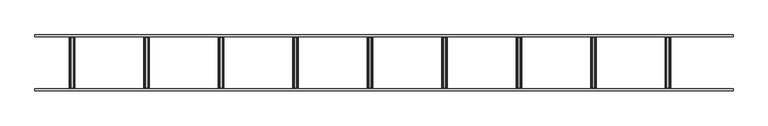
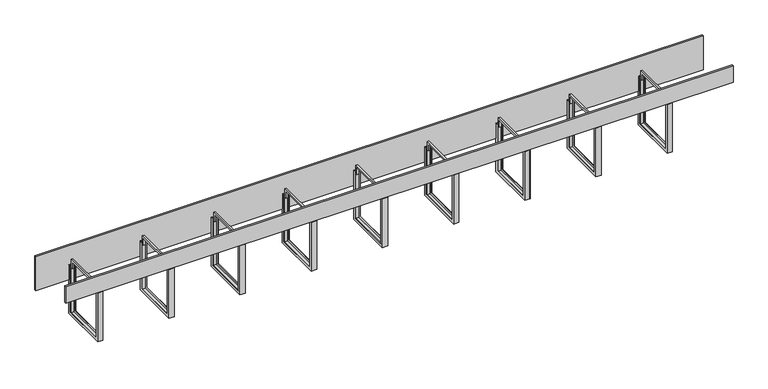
"""IFC4 building model written with IfcOpenShell, lengths in millimetres: proxy geometry, Betobeam FB : -."""

from ifc_helpers import new_model, si_unit, frame, origin, place, context, project, spatial, polyline, outline, extrude, faceted_brep, source, transform, mapped, element, save


def generic_models_a551cf04(model_context):
    return source(origin(), model_context, "Body", "SolidModel", [
        extrude(outline(polyline([(285.0, 320.0), (285.0, 270.0), (275.0, 270.0), (275.0, 310.0), (25.0, 310.0), (25.0, 270.0), (15.0, 270.0), (15.0, 320.0), (285.0, 320.0)])), frame((3395.0, 0.0, 0.0), z_axis=(1.0, 0.0, 0.0), x_axis=(0.0, 1.0, 0.0)), (0.0, 0.0, 1.0), 10.0),
        faceted_brep([(3385.0, 290.0, 290.0), (3385.0, 275.0, 290.0), (3387.0, 275.0, 290.0), (3387.0, 288.0, 290.0), (3413.0, 288.0, 290.0), (3413.0, 275.0, 290.0), (3415.0, 275.0, 290.0), (3415.0, 290.0, 290.0), (3385.0, 290.0, 0.0), (3385.0, 10.0, 0.0), (3385.0, 10.0, 290.0), (3385.0, 25.0, 290.0), (3385.0, 25.0, 15.0), (3385.0, 275.0, 15.0), (3387.0, 275.0, 15.0), (3387.0, 25.0, 15.0), (3387.0, 25.0, 290.0), (3387.0, 12.0, 290.0), (3387.0, 12.0, 2.0), (3387.0, 288.0, 2.0), (3413.0, 288.0, 2.0), (3413.0, 12.0, 2.0), (3413.0, 12.0, 290.0), (3413.0, 25.0, 290.0), (3413.0, 25.0, 15.0), (3413.0, 275.0, 15.0), (3415.0, 275.0, 15.0), (3415.0, 25.0, 15.0), (3415.0, 25.0, 290.0), (3415.0, 10.0, 290.0), (3415.0, 10.0, 0.0), (3415.0, 290.0, 0.0)], [[[0, 1, 2, 3, 4, 5, 6, 7]], [[1, 0, 8, 9, 10, 11, 12, 13]], [[2, 1, 13, 14]], [[3, 2, 14, 15, 16, 17, 18, 19]], [[4, 3, 19, 20]], [[5, 4, 20, 21, 22, 23, 24, 25]], [[6, 5, 25, 26]], [[7, 6, 26, 27, 28, 29, 30, 31]], [[0, 7, 31, 8]], [[14, 13, 12, 15]], [[20, 19, 18, 21]], [[26, 25, 24, 27]], [[8, 31, 30, 9]], [[10, 29, 28, 23, 22, 17, 16, 11]], [[15, 12, 11, 16]], [[21, 18, 17, 22]], [[27, 24, 23, 28]], [[9, 30, 29, 10]]]),
        extrude(outline(polyline([(285.0, 320.0), (285.0, 270.0), (275.0, 270.0), (275.0, 310.0), (25.0, 310.0), (25.0, 270.0), (15.0, 270.0), (15.0, 320.0), (285.0, 320.0)])), frame((2995.0, 0.0, 0.0), z_axis=(1.0, 0.0, 0.0), x_axis=(0.0, 1.0, 0.0)), (0.0, 0.0, 1.0), 10.0),
        faceted_brep([(2985.0, 290.0, 290.0), (2985.0, 275.0, 290.0), (2987.0, 275.0, 290.0), (2987.0, 288.0, 290.0), (3013.0, 288.0, 290.0), (3013.0, 275.0, 290.0), (3015.0, 275.0, 290.0), (3015.0, 290.0, 290.0), (2985.0, 290.0, 0.0), (2985.0, 10.0, 0.0), (2985.0, 10.0, 290.0), (2985.0, 25.0, 290.0), (2985.0, 25.0, 15.0), (2985.0, 275.0, 15.0), (2987.0, 275.0, 15.0), (2987.0, 25.0, 15.0), (2987.0, 25.0, 290.0), (2987.0, 12.0, 290.0), (2987.0, 12.0, 2.0), (2987.0, 288.0, 2.0), (3013.0, 288.0, 2.0), (3013.0, 12.0, 2.0), (3013.0, 12.0, 290.0), (3013.0, 25.0, 290.0), (3013.0, 25.0, 15.0), (3013.0, 275.0, 15.0), (3015.0, 275.0, 15.0), (3015.0, 25.0, 15.0), (3015.0, 25.0, 290.0), (3015.0, 10.0, 290.0), (3015.0, 10.0, 0.0), (3015.0, 290.0, 0.0)], [[[0, 1, 2, 3, 4, 5, 6, 7]], [[1, 0, 8, 9, 10, 11, 12, 13]], [[2, 1, 13, 14]], [[3, 2, 14, 15, 16, 17, 18, 19]], [[4, 3, 19, 20]], [[5, 4, 20, 21, 22, 23, 24, 25]], [[6, 5, 25, 26]], [[7, 6, 26, 27, 28, 29, 30, 31]], [[0, 7, 31, 8]], [[14, 13, 12, 15]], [[20, 19, 18, 21]], [[26, 25, 24, 27]], [[8, 31, 30, 9]], [[10, 29, 28, 23, 22, 17, 16, 11]], [[15, 12, 11, 16]], [[21, 18, 17, 22]], [[27, 24, 23, 28]], [[9, 30, 29, 10]]]),
        extrude(outline(polyline([(285.0, 320.0), (285.0, 270.0), (275.0, 270.0), (275.0, 310.0), (25.0, 310.0), (25.0, 270.0), (15.0, 270.0), (15.0, 320.0), (285.0, 320.0)])), frame((2595.0, 0.0, 0.0), z_axis=(1.0, 0.0, 0.0), x_axis=(0.0, 1.0, 0.0)), (0.0, 0.0, 1.0), 10.0),
        faceted_brep([(2585.0, 290.0, 290.0), (2585.0, 275.0, 290.0), (2587.0, 275.0, 290.0), (2587.0, 288.0, 290.0), (2613.0, 288.0, 290.0), (2613.0, 275.0, 290.0), (2615.0, 275.0, 290.0), (2615.0, 290.0, 290.0), (2585.0, 290.0, 0.0), (2585.0, 10.0, 0.0), (2585.0, 10.0, 290.0), (2585.0, 25.0, 290.0), (2585.0, 25.0, 15.0), (2585.0, 275.0, 15.0), (2587.0, 275.0, 15.0), (2587.0, 25.0, 15.0), (2587.0, 25.0, 290.0), (2587.0, 12.0, 290.0), (2587.0, 12.0, 2.0), (2587.0, 288.0, 2.0), (2613.0, 288.0, 2.0), (2613.0, 12.0, 2.0), (2613.0, 12.0, 290.0), (2613.0, 25.0, 290.0), (2613.0, 25.0, 15.0), (2613.0, 275.0, 15.0), (2615.0, 275.0, 15.0), (2615.0, 25.0, 15.0), (2615.0, 25.0, 290.0), (2615.0, 10.0, 290.0), (2615.0, 10.0, 0.0), (2615.0, 290.0, 0.0)], [[[0, 1, 2, 3, 4, 5, 6, 7]], [[1, 0, 8, 9, 10, 11, 12, 13]], [[2, 1, 13, 14]], [[3, 2, 14, 15, 16, 17, 18, 19]], [[4, 3, 19, 20]], [[5, 4, 20, 21, 22, 23, 24, 25]], [[6, 5, 25, 26]], [[7, 6, 26, 27, 28, 29, 30, 31]], [[0, 7, 31, 8]], [[14, 13, 12, 15]], [[20, 19, 18, 21]], [[26, 25, 24, 27]], [[8, 31, 30, 9]], [[10, 29, 28, 23, 22, 17, 16, 11]], [[15, 12, 11, 16]], [[21, 18, 17, 22]], [[27, 24, 23, 28]], [[9, 30, 29, 10]]]),
        extrude(outline(polyline([(285.0, 320.0), (285.0, 270.0), (275.0, 270.0), (275.0, 310.0), (25.0, 310.0), (25.0, 270.0), (15.0, 270.0), (15.0, 320.0), (285.0, 320.0)])), frame((2195.0, 0.0, 0.0), z_axis=(1.0, 0.0, 0.0), x_axis=(0.0, 1.0, 0.0)), (0.0, 0.0, 1.0), 10.0),
        faceted_brep([(2185.0, 290.0, 290.0), (2185.0, 275.0, 290.0), (2187.0, 275.0, 290.0), (2187.0, 288.0, 290.0), (2213.0, 288.0, 290.0), (2213.0, 275.0, 290.0), (2215.0, 275.0, 290.0), (2215.0, 290.0, 290.0), (2185.0, 290.0, 0.0), (2185.0, 10.0, 0.0), (2185.0, 10.0, 290.0), (2185.0, 25.0, 290.0), (2185.0, 25.0, 15.0), (2185.0, 275.0, 15.0), (2187.0, 275.0, 15.0), (2187.0, 25.0, 15.0), (2187.0, 25.0, 290.0), (2187.0, 12.0, 290.0), (2187.0, 12.0, 2.0), (2187.0, 288.0, 2.0), (2213.0, 288.0, 2.0), (2213.0, 12.0, 2.0), (2213.0, 12.0, 290.0), (2213.0, 25.0, 290.0), (2213.0, 25.0, 15.0), (2213.0, 275.0, 15.0), (2215.0, 275.0, 15.0), (2215.0, 25.0, 15.0), (2215.0, 25.0, 290.0), (2215.0, 10.0, 290.0), (2215.0, 10.0, 0.0), (2215.0, 290.0, 0.0)], [[[0, 1, 2, 3, 4, 5, 6, 7]], [[1, 0, 8, 9, 10, 11, 12, 13]], [[2, 1, 13, 14]], [[3, 2, 14, 15, 16, 17, 18, 19]], [[4, 3, 19, 20]], [[5, 4, 20, 21, 22, 23, 24, 25]], [[6, 5, 25, 26]], [[7, 6, 26, 27, 28, 29, 30, 31]], [[0, 7, 31, 8]], [[14, 13, 12, 15]], [[20, 19, 18, 21]], [[26, 25, 24, 27]], [[8, 31, 30, 9]], [[10, 29, 28, 23, 22, 17, 16, 11]], [[15, 12, 11, 16]], [[21, 18, 17, 22]], [[27, 24, 23, 28]], [[9, 30, 29, 10]]]),
        extrude(outline(polyline([(285.0, 320.0), (285.0, 270.0), (275.0, 270.0), (275.0, 310.0), (25.0, 310.0), (25.0, 270.0), (15.0, 270.0), (15.0, 320.0), (285.0, 320.0)])), frame((1795.0, 0.0, 0.0), z_axis=(1.0, 0.0, 0.0), x_axis=(0.0, 1.0, 0.0)), (0.0, 0.0, 1.0), 10.0),
        faceted_brep([(1785.0, 290.0, 290.0), (1785.0, 275.0, 290.0), (1787.0, 275.0, 290.0), (1787.0, 288.0, 290.0), (1813.0, 288.0, 290.0), (1813.0, 275.0, 290.0), (1815.0, 275.0, 290.0), (1815.0, 290.0, 290.0), (1785.0, 290.0, 0.0), (1785.0, 10.0, 0.0), (1785.0, 10.0, 290.0), (1785.0, 25.0, 290.0), (1785.0, 25.0, 15.0), (1785.0, 275.0, 15.0), (1787.0, 275.0, 15.0), (1787.0, 25.0, 15.0), (1787.0, 25.0, 290.0), (1787.0, 12.0, 290.0), (1787.0, 12.0, 2.0), (1787.0, 288.0, 2.0), (1813.0, 288.0, 2.0), (1813.0, 12.0, 2.0), (1813.0, 12.0, 290.0), (1813.0, 25.0, 290.0), (1813.0, 25.0, 15.0), (1813.0, 275.0, 15.0), (1815.0, 275.0, 15.0), (1815.0, 25.0, 15.0), (1815.0, 25.0, 290.0), (1815.0, 10.0, 290.0), (1815.0, 10.0, 0.0), (1815.0, 290.0, 0.0)], [[[0, 1, 2, 3, 4, 5, 6, 7]], [[1, 0, 8, 9, 10, 11, 12, 13]], [[2, 1, 13, 14]], [[3, 2, 14, 15, 16, 17, 18, 19]], [[4, 3, 19, 20]], [[5, 4, 20, 21, 22, 23, 24, 25]], [[6, 5, 25, 26]], [[7, 6, 26, 27, 28, 29, 30, 31]], [[0, 7, 31, 8]], [[14, 13, 12, 15]], [[20, 19, 18, 21]], [[26, 25, 24, 27]], [[8, 31, 30, 9]], [[10, 29, 28, 23, 22, 17, 16, 11]], [[15, 12, 11, 16]], [[21, 18, 17, 22]], [[27, 24, 23, 28]], [[9, 30, 29, 10]]]),
        extrude(outline(polyline([(285.0, 320.0), (285.0, 270.0), (275.0, 270.0), (275.0, 310.0), (25.0, 310.0), (25.0, 270.0), (15.0, 270.0), (15.0, 320.0), (285.0, 320.0)])), frame((1395.0, 0.0, 0.0), z_axis=(1.0, 0.0, 0.0), x_axis=(0.0, 1.0, 0.0)), (0.0, 0.0, 1.0), 10.0),
        faceted_brep([(1385.0, 290.0, 290.0), (1385.0, 275.0, 290.0), (1387.0, 275.0, 290.0), (1387.0, 288.0, 290.0), (1413.0, 288.0, 290.0), (1413.0, 275.0, 290.0), (1415.0, 275.0, 290.0), (1415.0, 290.0, 290.0), (1385.0, 290.0, 0.0), (1385.0, 10.0, 0.0), (1385.0, 10.0, 290.0), (1385.0, 25.0, 290.0), (1385.0, 25.0, 15.0), (1385.0, 275.0, 15.0), (1387.0, 275.0, 15.0), (1387.0, 25.0, 15.0), (1387.0, 25.0, 290.0), (1387.0, 12.0, 290.0), (1387.0, 12.0, 2.0), (1387.0, 288.0, 2.0), (1413.0, 288.0, 2.0), (1413.0, 12.0, 2.0), (1413.0, 12.0, 290.0), (1413.0, 25.0, 290.0), (1413.0, 25.0, 15.0), (1413.0, 275.0, 15.0), (1415.0, 275.0, 15.0), (1415.0, 25.0, 15.0), (1415.0, 25.0, 290.0), (1415.0, 10.0, 290.0), (1415.0, 10.0, 0.0), (1415.0, 290.0, 0.0)], [[[0, 1, 2, 3, 4, 5, 6, 7]], [[1, 0, 8, 9, 10, 11, 12, 13]], [[2, 1, 13, 14]], [[3, 2, 14, 15, 16, 17, 18, 19]], [[4, 3, 19, 20]], [[5, 4, 20, 21, 22, 23, 24, 25]], [[6, 5, 25, 26]], [[7, 6, 26, 27, 28, 29, 30, 31]], [[0, 7, 31, 8]], [[14, 13, 12, 15]], [[20, 19, 18, 21]], [[26, 25, 24, 27]], [[8, 31, 30, 9]], [[10, 29, 28, 23, 22, 17, 16, 11]], [[15, 12, 11, 16]], [[21, 18, 17, 22]], [[27, 24, 23, 28]], [[9, 30, 29, 10]]]),
        extrude(outline(polyline([(285.0, 320.0), (285.0, 270.0), (275.0, 270.0), (275.0, 310.0), (25.0, 310.0), (25.0, 270.0), (15.0, 270.0), (15.0, 320.0), (285.0, 320.0)])), frame((995.0, 0.0, 0.0), z_axis=(1.0, 0.0, 0.0), x_axis=(0.0, 1.0, 0.0)), (0.0, 0.0, 1.0), 10.0),
        faceted_brep([(985.0, 290.0, 290.0), (985.0, 275.0, 290.0), (987.0, 275.0, 290.0), (987.0, 288.0, 290.0), (1013.0, 288.0, 290.0), (1013.0, 275.0, 290.0), (1015.0, 275.0, 290.0), (1015.0, 290.0, 290.0), (985.0, 290.0, 0.0), (985.0, 10.0, 0.0), (985.0, 10.0, 290.0), (985.0, 25.0, 290.0), (985.0, 25.0, 15.0), (985.0, 275.0, 15.0), (987.0, 275.0, 15.0), (987.0, 25.0, 15.0), (987.0, 25.0, 290.0), (987.0, 12.0, 290.0), (987.0, 12.0, 2.0), (987.0, 288.0, 2.0), (1013.0, 288.0, 2.0), (1013.0, 12.0, 2.0), (1013.0, 12.0, 290.0), (1013.0, 25.0, 290.0), (1013.0, 25.0, 15.0), (1013.0, 275.0, 15.0), (1015.0, 275.0, 15.0), (1015.0, 25.0, 15.0), (1015.0, 25.0, 290.0), (1015.0, 10.0, 290.0), (1015.0, 10.0, 0.0), (1015.0, 290.0, 0.0)], [[[0, 1, 2, 3, 4, 5, 6, 7]], [[1, 0, 8, 9, 10, 11, 12, 13]], [[2, 1, 13, 14]], [[3, 2, 14, 15, 16, 17, 18, 19]], [[4, 3, 19, 20]], [[5, 4, 20, 21, 22, 23, 24, 25]], [[6, 5, 25, 26]], [[7, 6, 26, 27, 28, 29, 30, 31]], [[0, 7, 31, 8]], [[14, 13, 12, 15]], [[20, 19, 18, 21]], [[26, 25, 24, 27]], [[8, 31, 30, 9]], [[10, 29, 28, 23, 22, 17, 16, 11]], [[15, 12, 11, 16]], [[21, 18, 17, 22]], [[27, 24, 23, 28]], [[9, 30, 29, 10]]]),
        extrude(outline(polyline([(285.0, 320.0), (285.0, 270.0), (275.0, 270.0), (275.0, 310.0), (25.0, 310.0), (25.0, 270.0), (15.0, 270.0), (15.0, 320.0), (285.0, 320.0)])), frame((595.0, 0.0, 0.0), z_axis=(1.0, 0.0, 0.0), x_axis=(0.0, 1.0, 0.0)), (0.0, 0.0, 1.0), 10.0),
        faceted_brep([(585.0, 290.0, 290.0), (585.0, 275.0, 290.0), (587.0, 275.0, 290.0), (587.0, 288.0, 290.0), (613.0, 288.0, 290.0), (613.0, 275.0, 290.0), (615.0, 275.0, 290.0), (615.0, 290.0, 290.0), (585.0, 290.0, 0.0), (585.0, 10.0, 0.0), (585.0, 10.0, 290.0), (585.0, 25.0, 290.0), (585.0, 25.0, 15.0), (585.0, 275.0, 15.0), (587.0, 275.0, 15.0), (587.0, 25.0, 15.0), (587.0, 25.0, 290.0), (587.0, 12.0, 290.0), (587.0, 12.0, 2.0), (587.0, 288.0, 2.0), (613.0, 288.0, 2.0), (613.0, 12.0, 2.0), (613.0, 12.0, 290.0), (613.0, 25.0, 290.0), (613.0, 25.0, 15.0), (613.0, 275.0, 15.0), (615.0, 275.0, 15.0), (615.0, 25.0, 15.0), (615.0, 25.0, 290.0), (615.0, 10.0, 290.0), (615.0, 10.0, 0.0), (615.0, 290.0, 0.0)], [[[0, 1, 2, 3, 4, 5, 6, 7]], [[1, 0, 8, 9, 10, 11, 12, 13]], [[2, 1, 13, 14]], [[3, 2, 14, 15, 16, 17, 18, 19]], [[4, 3, 19, 20]], [[5, 4, 20, 21, 22, 23, 24, 25]], [[6, 5, 25, 26]], [[7, 6, 26, 27, 28, 29, 30, 31]], [[0, 7, 31, 8]], [[14, 13, 12, 15]], [[20, 19, 18, 21]], [[26, 25, 24, 27]], [[8, 31, 30, 9]], [[10, 29, 28, 23, 22, 17, 16, 11]], [[15, 12, 11, 16]], [[21, 18, 17, 22]], [[27, 24, 23, 28]], [[9, 30, 29, 10]]]),
        extrude(outline(polyline([(285.0, 320.0), (285.0, 270.0), (275.0, 270.0), (275.0, 310.0), (25.0, 310.0), (25.0, 270.0), (15.0, 270.0), (15.0, 320.0), (285.0, 320.0)])), frame((195.0, 0.0, 0.0), z_axis=(1.0, 0.0, 0.0), x_axis=(0.0, 1.0, 0.0)), (0.0, 0.0, 1.0), 10.0),
        faceted_brep([(185.0, 290.0, 290.0), (185.0, 275.0, 290.0), (187.0, 275.0, 290.0), (187.0, 288.0, 290.0), (213.0, 288.0, 290.0), (213.0, 275.0, 290.0), (215.0, 275.0, 290.0), (215.0, 290.0, 290.0), (185.0, 290.0, 0.0), (185.0, 10.0, 0.0), (185.0, 10.0, 290.0), (185.0, 25.0, 290.0), (185.0, 25.0, 15.0), (185.0, 275.0, 15.0), (187.0, 275.0, 15.0), (187.0, 25.0, 15.0), (187.0, 25.0, 290.0), (187.0, 12.0, 290.0), (187.0, 12.0, 2.0), (187.0, 288.0, 2.0), (213.0, 288.0, 2.0), (213.0, 12.0, 2.0), (213.0, 12.0, 290.0), (213.0, 25.0, 290.0), (213.0, 25.0, 15.0), (213.0, 275.0, 15.0), (215.0, 275.0, 15.0), (215.0, 25.0, 15.0), (215.0, 25.0, 290.0), (215.0, 10.0, 290.0), (215.0, 10.0, 0.0), (215.0, 290.0, 0.0)], [[[0, 1, 2, 3, 4, 5, 6, 7]], [[1, 0, 8, 9, 10, 11, 12, 13]], [[2, 1, 13, 14]], [[3, 2, 14, 15, 16, 17, 18, 19]], [[4, 3, 19, 20]], [[5, 4, 20, 21, 22, 23, 24, 25]], [[6, 5, 25, 26]], [[7, 6, 26, 27, 28, 29, 30, 31]], [[0, 7, 31, 8]], [[14, 13, 12, 15]], [[20, 19, 18, 21]], [[26, 25, 24, 27]], [[8, 31, 30, 9]], [[10, 29, 28, 23, 22, 17, 16, 11]], [[15, 12, 11, 16]], [[21, 18, 17, 22]], [[27, 24, 23, 28]], [[9, 30, 29, 10]]]),
        extrude(outline(polyline([(0.0, -10.0), (0.0, 0.0), (3750.0, 0.0), (3750.0, -10.0), (0.0, -10.0)])), frame((3750.0, 0.0, 300.0), z_axis=(0.0, -6.067439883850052e-12, 1.0), x_axis=(-1.0, 0.0, 0.0)), (0.0, 0.0, 1.0), 100.0),
        extrude(outline(polyline([(3750.0, 300.0), (3750.0, 290.0), (0.0, 290.0), (0.0, 300.0), (3750.0, 300.0)])), frame((0.0, 0.0, 200.0), z_axis=(0.0, 0.0, 1.0), x_axis=(1.0, 0.0, 0.0)), (0.0, 0.0, 1.0), 200.0),
    ])


if __name__ == "__main__":
    model = new_model("IFC4")
    model_context = context("Model", 3, world=origin())
    ifc_project = project(units=[si_unit("LENGTHUNIT", "METRE", prefix="MILLI")], contexts=[model_context])
    site = spatial("IfcSite", under=ifc_project)
    building = spatial("IfcBuilding", under=site)
    placement = place(None, origin())
    generic_models_shape = generic_models_a551cf04(model_context)
    element("IfcBuildingElementProxy", 1, Name="Betobeam FB : -", ObjectType="Betobeam FB : -", at=placement, inside=building, context=model_context, shape_type="MappedRepresentation", body=[
        mapped(generic_models_shape, transform((0.0, 0.0, 0.0), x_axis=(1.0, 0.0, 0.0), y_axis=(0.0, 1.0, 0.0), z_axis=(0.0, 0.0, 1.0))),
    ])
    save(model, "model.ifc")
